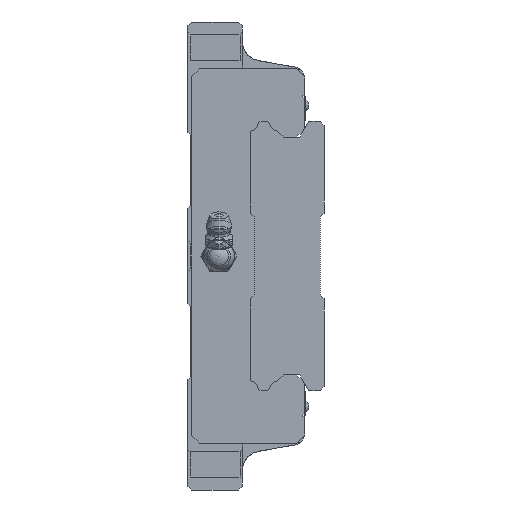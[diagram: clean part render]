
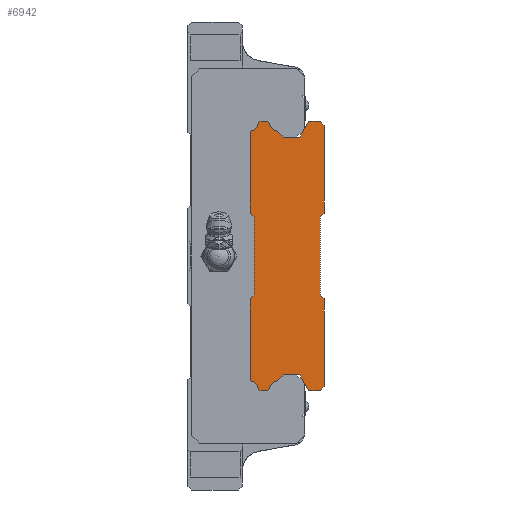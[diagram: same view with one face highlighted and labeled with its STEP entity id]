
A CAD part, left-side view. The second image highlights one B-rep face of the part: STEP entity #6942.
In plain terms, the highlighted planar face has unit normal (-1, 0, 0).
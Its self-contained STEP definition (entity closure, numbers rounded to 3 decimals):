
#338=LINE('',#11364,#712);
#342=LINE('',#11373,#716);
#346=LINE('',#11385,#720);
#349=LINE('',#11391,#723);
#352=LINE('',#11397,#726);
#355=LINE('',#11403,#729);
#358=LINE('',#11409,#732);
#361=LINE('',#11491,#735);
#364=LINE('',#11497,#738);
#367=LINE('',#11503,#741);
#370=LINE('',#11509,#744);
#373=LINE('',#11591,#747);
#376=LINE('',#11597,#750);
#379=LINE('',#11603,#753);
#382=LINE('',#11609,#756);
#385=LINE('',#11615,#759);
#388=LINE('',#11621,#762);
#392=LINE('',#11633,#766);
#395=LINE('',#11639,#769);
#398=LINE('',#11645,#772);
#402=LINE('',#11733,#776);
#405=LINE('',#11739,#779);
#408=LINE('',#11745,#782);
#411=LINE('',#11751,#785);
#414=LINE('',#11833,#788);
#418=LINE('',#11845,#792);
#712=VECTOR('',#9019,1000.);
#716=VECTOR('',#9025,1000.);
#720=VECTOR('',#9037,1000.);
#723=VECTOR('',#9042,1000.);
#726=VECTOR('',#9047,1000.);
#729=VECTOR('',#9052,1000.);
#732=VECTOR('',#9057,1000.);
#735=VECTOR('',#9138,1000.);
#738=VECTOR('',#9143,1000.);
#741=VECTOR('',#9148,1000.);
#744=VECTOR('',#9153,1000.);
#747=VECTOR('',#9234,1000.);
#750=VECTOR('',#9239,1000.);
#753=VECTOR('',#9244,1000.);
#756=VECTOR('',#9249,1000.);
#759=VECTOR('',#9254,1000.);
#762=VECTOR('',#9259,1000.);
#766=VECTOR('',#9271,1000.);
#769=VECTOR('',#9276,1000.);
#772=VECTOR('',#9281,1000.);
#776=VECTOR('',#9369,1000.);
#779=VECTOR('',#9374,1000.);
#782=VECTOR('',#9379,1000.);
#785=VECTOR('',#9384,1000.);
#788=VECTOR('',#9465,1000.);
#792=VECTOR('',#9477,1000.);
#941=PLANE('',#7713);
#1333=CIRCLE('',#7525,2.48);
#1411=CIRCLE('',#7619,2.48);
#1413=CIRCLE('',#7625,2.48);
#1491=CIRCLE('',#7709,2.48);
#2843=ORIENTED_EDGE('',*,*,#3777,.F.);
#2844=ORIENTED_EDGE('',*,*,#4017,.F.);
#2845=ORIENTED_EDGE('',*,*,#4014,.T.);
#2846=ORIENTED_EDGE('',*,*,#4011,.F.);
#2847=ORIENTED_EDGE('',*,*,#3970,.F.);
#2848=ORIENTED_EDGE('',*,*,#3967,.F.);
#2849=ORIENTED_EDGE('',*,*,#3964,.F.);
#2850=ORIENTED_EDGE('',*,*,#3961,.F.);
#2851=ORIENTED_EDGE('',*,*,#3920,.T.);
#2852=ORIENTED_EDGE('',*,*,#3917,.F.);
#2853=ORIENTED_EDGE('',*,*,#3914,.F.);
#2854=ORIENTED_EDGE('',*,*,#3911,.F.);
#2855=ORIENTED_EDGE('',*,*,#3908,.T.);
#2856=ORIENTED_EDGE('',*,*,#3905,.F.);
#2857=ORIENTED_EDGE('',*,*,#3902,.F.);
#2858=ORIENTED_EDGE('',*,*,#3899,.F.);
#2859=ORIENTED_EDGE('',*,*,#3896,.F.);
#2860=ORIENTED_EDGE('',*,*,#3893,.F.);
#2861=ORIENTED_EDGE('',*,*,#3890,.F.);
#2862=ORIENTED_EDGE('',*,*,#3849,.F.);
#2863=ORIENTED_EDGE('',*,*,#3846,.F.);
#2864=ORIENTED_EDGE('',*,*,#3843,.F.);
#2865=ORIENTED_EDGE('',*,*,#3840,.F.);
#2866=ORIENTED_EDGE('',*,*,#3799,.F.);
#2867=ORIENTED_EDGE('',*,*,#3796,.F.);
#2868=ORIENTED_EDGE('',*,*,#3793,.F.);
#2869=ORIENTED_EDGE('',*,*,#3790,.F.);
#2870=ORIENTED_EDGE('',*,*,#3787,.F.);
#2871=ORIENTED_EDGE('',*,*,#3784,.T.);
#2872=ORIENTED_EDGE('',*,*,#3781,.F.);
#3777=EDGE_CURVE('',#4490,#4491,#338,.T.);
#3781=EDGE_CURVE('',#4491,#4494,#342,.T.);
#3784=EDGE_CURVE('',#4496,#4494,#1333,.T.);
#3787=EDGE_CURVE('',#4496,#4498,#346,.T.);
#3790=EDGE_CURVE('',#4498,#4500,#349,.T.);
#3793=EDGE_CURVE('',#4500,#4502,#352,.T.);
#3796=EDGE_CURVE('',#4502,#4504,#355,.T.);
#3799=EDGE_CURVE('',#4504,#4506,#358,.T.);
#3840=EDGE_CURVE('',#4506,#4546,#361,.T.);
#3843=EDGE_CURVE('',#4546,#4548,#364,.T.);
#3846=EDGE_CURVE('',#4548,#4550,#367,.T.);
#3849=EDGE_CURVE('',#4550,#4552,#370,.T.);
#3890=EDGE_CURVE('',#4552,#4592,#373,.T.);
#3893=EDGE_CURVE('',#4592,#4594,#376,.T.);
#3896=EDGE_CURVE('',#4594,#4596,#379,.T.);
#3899=EDGE_CURVE('',#4596,#4598,#382,.T.);
#3902=EDGE_CURVE('',#4598,#4600,#385,.T.);
#3905=EDGE_CURVE('',#4600,#4602,#388,.T.);
#3908=EDGE_CURVE('',#4604,#4602,#1411,.T.);
#3911=EDGE_CURVE('',#4604,#4606,#392,.T.);
#3914=EDGE_CURVE('',#4606,#4608,#395,.T.);
#3917=EDGE_CURVE('',#4608,#4610,#398,.T.);
#3920=EDGE_CURVE('',#4612,#4610,#1413,.T.);
#3961=EDGE_CURVE('',#4612,#4652,#402,.T.);
#3964=EDGE_CURVE('',#4652,#4654,#405,.T.);
#3967=EDGE_CURVE('',#4654,#4656,#408,.T.);
#3970=EDGE_CURVE('',#4656,#4658,#411,.T.);
#4011=EDGE_CURVE('',#4658,#4698,#414,.T.);
#4014=EDGE_CURVE('',#4700,#4698,#1491,.T.);
#4017=EDGE_CURVE('',#4700,#4490,#418,.T.);
#4490=VERTEX_POINT('',#11365);
#4491=VERTEX_POINT('',#11366);
#4494=VERTEX_POINT('',#11374);
#4496=VERTEX_POINT('',#11380);
#4498=VERTEX_POINT('',#11386);
#4500=VERTEX_POINT('',#11392);
#4502=VERTEX_POINT('',#11398);
#4504=VERTEX_POINT('',#11404);
#4506=VERTEX_POINT('',#11410);
#4546=VERTEX_POINT('',#11492);
#4548=VERTEX_POINT('',#11498);
#4550=VERTEX_POINT('',#11504);
#4552=VERTEX_POINT('',#11510);
#4592=VERTEX_POINT('',#11592);
#4594=VERTEX_POINT('',#11598);
#4596=VERTEX_POINT('',#11604);
#4598=VERTEX_POINT('',#11610);
#4600=VERTEX_POINT('',#11616);
#4602=VERTEX_POINT('',#11622);
#4604=VERTEX_POINT('',#11628);
#4606=VERTEX_POINT('',#11634);
#4608=VERTEX_POINT('',#11640);
#4610=VERTEX_POINT('',#11646);
#4612=VERTEX_POINT('',#11652);
#4652=VERTEX_POINT('',#11734);
#4654=VERTEX_POINT('',#11740);
#4656=VERTEX_POINT('',#11746);
#4658=VERTEX_POINT('',#11752);
#4698=VERTEX_POINT('',#11834);
#4700=VERTEX_POINT('',#11840);
#5334=EDGE_LOOP('',(#2843,#2844,#2845,#2846,#2847,#2848,#2849,#2850,#2851,
#2852,#2853,#2854,#2855,#2856,#2857,#2858,#2859,#2860,#2861,#2862,#2863,
#2864,#2865,#2866,#2867,#2868,#2869,#2870,#2871,#2872));
#6237=FACE_BOUND('',#5334,.T.);
#6942=ADVANCED_FACE('',(#6237),#941,.F.);
#7525=AXIS2_PLACEMENT_3D('',#11379,#9030,#9031);
#7619=AXIS2_PLACEMENT_3D('',#11627,#9264,#9265);
#7625=AXIS2_PLACEMENT_3D('',#11651,#9286,#9287);
#7709=AXIS2_PLACEMENT_3D('',#11839,#9470,#9471);
#7713=AXIS2_PLACEMENT_3D('',#11848,#9481,#9482);
#9019=DIRECTION('',(0.,-1.,0.));
#9025=DIRECTION('',(0.,-0.707,-0.707));
#9030=DIRECTION('',(1.,0.,0.));
#9031=DIRECTION('',(0.,0.,-1.));
#9037=DIRECTION('',(0.,-0.707,-0.707));
#9042=DIRECTION('',(0.,-1.,0.));
#9047=DIRECTION('',(0.,-0.5,0.866));
#9052=DIRECTION('',(0.,-1.,0.));
#9057=DIRECTION('',(0.,-0.707,-0.707));
#9138=DIRECTION('',(0.,0.,-1.));
#9143=DIRECTION('',(0.,0.707,-0.707));
#9148=DIRECTION('',(0.,0.,-1.));
#9153=DIRECTION('',(0.,-0.707,-0.707));
#9234=DIRECTION('',(0.,0.,-1.));
#9239=DIRECTION('',(0.,0.707,-0.707));
#9244=DIRECTION('',(0.,1.,0.));
#9249=DIRECTION('',(0.,0.5,0.866));
#9254=DIRECTION('',(0.,1.,0.));
#9259=DIRECTION('',(0.,0.707,-0.707));
#9264=DIRECTION('',(1.,0.,0.));
#9265=DIRECTION('',(0.,0.,-1.));
#9271=DIRECTION('',(0.,0.707,-0.707));
#9276=DIRECTION('',(0.,1.,0.));
#9281=DIRECTION('',(0.,0.71,0.705));
#9286=DIRECTION('',(1.,0.,0.));
#9287=DIRECTION('',(0.,0.,-1.));
#9369=DIRECTION('',(0.,0.,1.));
#9374=DIRECTION('',(0.,-0.707,0.707));
#9379=DIRECTION('',(0.,0.,1.));
#9384=DIRECTION('',(0.,0.707,0.707));
#9465=DIRECTION('',(0.,0.,1.));
#9470=DIRECTION('',(1.,0.,0.));
#9471=DIRECTION('',(0.,0.,-1.));
#9477=DIRECTION('',(0.,-0.71,0.705));
#9481=DIRECTION('',(1.,0.,0.));
#9482=DIRECTION('',(0.,0.,-1.));
#11364=CARTESIAN_POINT('',(-20.,16.5,34.5));
#11365=CARTESIAN_POINT('',(-20.,16.5,34.5));
#11366=CARTESIAN_POINT('',(-20.,14.5,34.5));
#11373=CARTESIAN_POINT('',(-20.,14.5,34.5));
#11374=CARTESIAN_POINT('',(-20.,14.184,34.184));
#11379=CARTESIAN_POINT('',(-20.,11.722,34.482));
#11380=CARTESIAN_POINT('',(-20.,12.02,32.02));
#11385=CARTESIAN_POINT('',(-20.,12.02,32.02));
#11386=CARTESIAN_POINT('',(-20.,10.5,30.5));
#11391=CARTESIAN_POINT('',(-20.,10.5,30.5));
#11392=CARTESIAN_POINT('',(-20.,6.279,30.5));
#11397=CARTESIAN_POINT('',(-20.,6.279,30.5));
#11398=CARTESIAN_POINT('',(-20.,3.97,34.5));
#11403=CARTESIAN_POINT('',(-20.,3.97,34.5));
#11404=CARTESIAN_POINT('',(-20.,1.,34.5));
#11409=CARTESIAN_POINT('',(-20.,1.,34.5));
#11410=CARTESIAN_POINT('',(-20.,0.,33.5));
#11491=CARTESIAN_POINT('',(-20.,0.,33.5));
#11492=CARTESIAN_POINT('',(-20.,0.,11.));
#11497=CARTESIAN_POINT('',(-20.,0.,11.));
#11498=CARTESIAN_POINT('',(-20.,1.,10.));
#11503=CARTESIAN_POINT('',(-20.,1.,10.));
#11504=CARTESIAN_POINT('',(-20.,1.,-10.));
#11509=CARTESIAN_POINT('',(-20.,1.,-10.));
#11510=CARTESIAN_POINT('',(-20.,0.,-11.));
#11591=CARTESIAN_POINT('',(-20.,0.,-11.));
#11592=CARTESIAN_POINT('',(-20.,0.,-33.5));
#11597=CARTESIAN_POINT('',(-20.,0.,-33.5));
#11598=CARTESIAN_POINT('',(-20.,1.,-34.5));
#11603=CARTESIAN_POINT('',(-20.,1.,-34.5));
#11604=CARTESIAN_POINT('',(-20.,3.97,-34.5));
#11609=CARTESIAN_POINT('',(-20.,3.97,-34.5));
#11610=CARTESIAN_POINT('',(-20.,6.279,-30.5));
#11615=CARTESIAN_POINT('',(-20.,6.279,-30.5));
#11616=CARTESIAN_POINT('',(-20.,10.5,-30.5));
#11621=CARTESIAN_POINT('',(-20.,10.5,-30.5));
#11622=CARTESIAN_POINT('',(-20.,12.02,-32.02));
#11627=CARTESIAN_POINT('',(-20.,11.722,-34.482));
#11628=CARTESIAN_POINT('',(-20.,14.184,-34.184));
#11633=CARTESIAN_POINT('',(-20.,14.184,-34.184));
#11634=CARTESIAN_POINT('',(-20.,14.5,-34.5));
#11639=CARTESIAN_POINT('',(-20.,14.5,-34.5));
#11640=CARTESIAN_POINT('',(-20.,16.5,-34.5));
#11645=CARTESIAN_POINT('',(-20.,16.5,-34.5));
#11646=CARTESIAN_POINT('',(-20.,16.816,-34.187));
#11651=CARTESIAN_POINT('',(-20.,19.278,-34.482));
#11652=CARTESIAN_POINT('',(-20.,19.,-32.018));
#11733=CARTESIAN_POINT('',(-20.,19.,-32.018));
#11734=CARTESIAN_POINT('',(-20.,19.,-11.));
#11739=CARTESIAN_POINT('',(-20.,19.,-11.));
#11740=CARTESIAN_POINT('',(-20.,18.,-10.));
#11745=CARTESIAN_POINT('',(-20.,18.,-10.));
#11746=CARTESIAN_POINT('',(-20.,18.,10.));
#11751=CARTESIAN_POINT('',(-20.,18.,10.));
#11752=CARTESIAN_POINT('',(-20.,19.,11.));
#11833=CARTESIAN_POINT('',(-20.,19.,11.));
#11834=CARTESIAN_POINT('',(-20.,19.,32.018));
#11839=CARTESIAN_POINT('',(-20.,19.278,34.482));
#11840=CARTESIAN_POINT('',(-20.,16.816,34.187));
#11845=CARTESIAN_POINT('',(-20.,16.816,34.187));
#11848=CARTESIAN_POINT('',(-20.,11.722,34.482));
